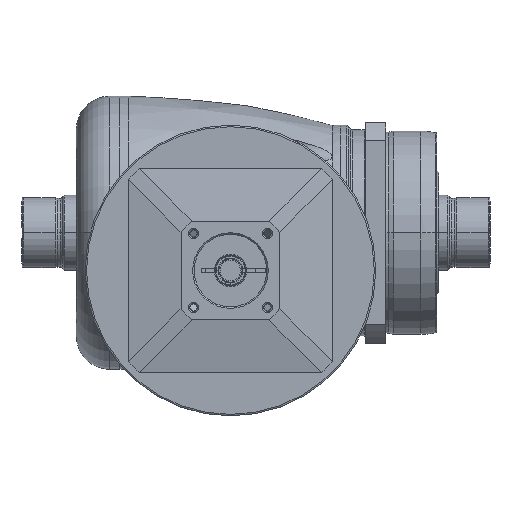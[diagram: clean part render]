
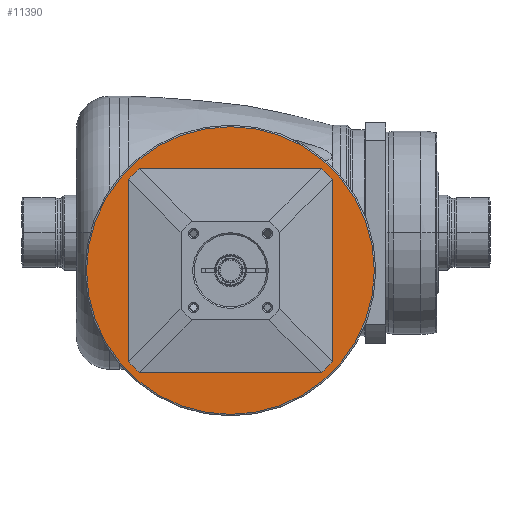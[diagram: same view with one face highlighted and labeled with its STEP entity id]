
A CAD part, front view. The second image highlights one B-rep face of the part: STEP entity #11390.
In plain terms, the highlighted planar face has unit normal (0, -1, 0) as drawn and (1, 0, 0) by its records, which use the part's own axes.
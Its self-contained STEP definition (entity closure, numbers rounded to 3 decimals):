
#10373=CARTESIAN_POINT('',(-7.,0.,0.));
#10374=DIRECTION('',(-1.,0.,0.));
#10375=DIRECTION('',(0.,-1.,0.));
#10376=AXIS2_PLACEMENT_3D('',#10373,#10374,#10375);
#10378=CARTESIAN_POINT('',(-7.,0.,0.));
#10379=DIRECTION('',(-1.,0.,0.));
#10380=DIRECTION('',(0.,1.,0.));
#10381=AXIS2_PLACEMENT_3D('',#10378,#10379,#10380);
#10383=CARTESIAN_POINT('',(-7.,0.,0.));
#10384=DIRECTION('',(-1.,0.,0.));
#10385=DIRECTION('',(0.,-1.,0.));
#10386=AXIS2_PLACEMENT_3D('',#10383,#10384,#10385);
#10388=CARTESIAN_POINT('',(-7.,0.,0.));
#10389=DIRECTION('',(-1.,0.,0.));
#10390=DIRECTION('',(0.,1.,0.));
#10391=AXIS2_PLACEMENT_3D('',#10388,#10389,#10390);
#10635=CARTESIAN_POINT('',(-7.,-49.5,0.));
#10636=CARTESIAN_POINT('',(-7.,49.5,0.));
#10637=VERTEX_POINT('',#10635);
#10638=VERTEX_POINT('',#10636);
#10693=CARTESIAN_POINT('',(-7.,-34.5,0.));
#10694=CARTESIAN_POINT('',(-7.,34.5,0.));
#10695=VERTEX_POINT('',#10693);
#10696=VERTEX_POINT('',#10694);
#11375=CARTESIAN_POINT('',(-7.,0.,0.));
#11376=DIRECTION('',(1.,0.,0.));
#11377=DIRECTION('',(0.,-1.,0.));
#11378=AXIS2_PLACEMENT_3D('',#11375,#11376,#11377);
#11379=PLANE('',#11378);
#11380=ORIENTED_EDGE('',*,*,#11307,.T.);
#11381=ORIENTED_EDGE('',*,*,#11292,.T.);
#11382=EDGE_LOOP('',(#11380,#11381));
#11383=FACE_OUTER_BOUND('',#11382,.F.);
#11385=ORIENTED_EDGE('',*,*,#11384,.F.);
#11387=ORIENTED_EDGE('',*,*,#11386,.F.);
#11388=EDGE_LOOP('',(#11385,#11387));
#11389=FACE_BOUND('',#11388,.F.);
#11390=ADVANCED_FACE('',(#11383,#11389),#11379,.T.);
#10377=CIRCLE('',#10376,34.5);
#10382=CIRCLE('',#10381,34.5);
#10387=CIRCLE('',#10386,49.5);
#10392=CIRCLE('',#10391,49.5);
#11292=EDGE_CURVE('',#10638,#10637,#10392,.T.);
#11307=EDGE_CURVE('',#10637,#10638,#10387,.T.);
#11384=EDGE_CURVE('',#10695,#10696,#10377,.T.);
#11386=EDGE_CURVE('',#10696,#10695,#10382,.T.);
